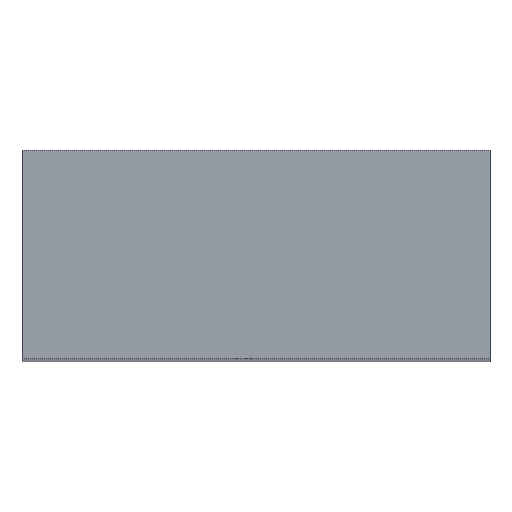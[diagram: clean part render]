
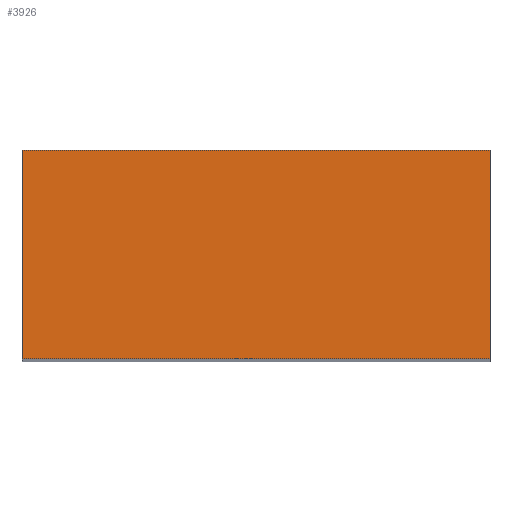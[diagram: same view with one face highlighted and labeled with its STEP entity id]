
A CAD part, top view. The second image highlights one B-rep face of the part: STEP entity #3926.
In plain terms, the highlighted planar face has unit normal (0, 0, 1).
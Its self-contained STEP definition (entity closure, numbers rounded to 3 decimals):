
#187 = LINE ( 'NONE', #4963, #3608 ) ;
#193 = LINE ( 'NONE', #4433, #856 ) ;
#405 = CARTESIAN_POINT ( 'NONE',  ( 260., 0., 0. ) ) ;
#436 = VERTEX_POINT ( 'NONE', #2667 ) ;
#460 = EDGE_CURVE ( 'NONE', #3221, #1747, #3795, .T. ) ;
#547 = VECTOR ( 'NONE', #1953, 1000. ) ;
#628 = EDGE_LOOP ( 'NONE', ( #2772, #3506, #4765, #915 ) ) ;
#705 = CARTESIAN_POINT ( 'NONE',  ( 260., 116., 0. ) ) ;
#856 = VECTOR ( 'NONE', #1314, 1000. ) ;
#887 = EDGE_CURVE ( 'NONE', #436, #3221, #193, .T. ) ;
#915 = ORIENTED_EDGE ( 'NONE', *, *, #3773, .T. ) ;
#919 = CARTESIAN_POINT ( 'NONE',  ( 0., 0., 0. ) ) ;
#1314 = DIRECTION ( 'NONE',  ( 0., -1., 0. ) ) ;
#1747 = VERTEX_POINT ( 'NONE', #405 ) ;
#1811 = CARTESIAN_POINT ( 'NONE',  ( 0., 0., 0. ) ) ;
#1864 = DIRECTION ( 'NONE',  ( 1., 0., 0. ) ) ;
#1953 = DIRECTION ( 'NONE',  ( 0., 1., 0. ) ) ;
#2189 = DIRECTION ( 'NONE',  ( -1., 0., 0. ) ) ;
#2303 = CARTESIAN_POINT ( 'NONE',  ( 0., 0., 0. ) ) ;
#2422 = LINE ( 'NONE', #4299, #547 ) ;
#2442 = PLANE ( 'NONE',  #2889 ) ;
#2667 = CARTESIAN_POINT ( 'NONE',  ( 0., 116., 0. ) ) ;
#2772 = ORIENTED_EDGE ( 'NONE', *, *, #887, .T. ) ;
#2853 = DIRECTION ( 'NONE',  ( 0., 0., -1. ) ) ;
#2889 = AXIS2_PLACEMENT_3D ( 'NONE', #919, #2853, #4776 ) ;
#3052 = VERTEX_POINT ( 'NONE', #705 ) ;
#3152 = FACE_OUTER_BOUND ( 'NONE', #628, .T. ) ;
#3221 = VERTEX_POINT ( 'NONE', #1811 ) ;
#3442 = EDGE_CURVE ( 'NONE', #1747, #3052, #2422, .T. ) ;
#3506 = ORIENTED_EDGE ( 'NONE', *, *, #460, .T. ) ;
#3608 = VECTOR ( 'NONE', #2189, 1000. ) ;
#3773 = EDGE_CURVE ( 'NONE', #3052, #436, #187, .T. ) ;
#3795 = LINE ( 'NONE', #2303, #4320 ) ;
#3926 = ADVANCED_FACE ( 'NONE', ( #3152 ), #2442, .F. ) ;
#4299 = CARTESIAN_POINT ( 'NONE',  ( 260., 0., 0. ) ) ;
#4320 = VECTOR ( 'NONE', #1864, 1000. ) ;
#4433 = CARTESIAN_POINT ( 'NONE',  ( 0., 0., 0. ) ) ;
#4765 = ORIENTED_EDGE ( 'NONE', *, *, #3442, .T. ) ;
#4776 = DIRECTION ( 'NONE',  ( -1., 0., 0. ) ) ;
#4963 = CARTESIAN_POINT ( 'NONE',  ( 0., 116., 0. ) ) ;
